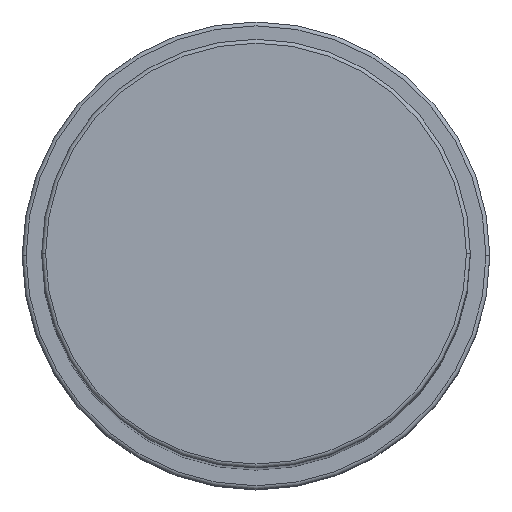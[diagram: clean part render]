
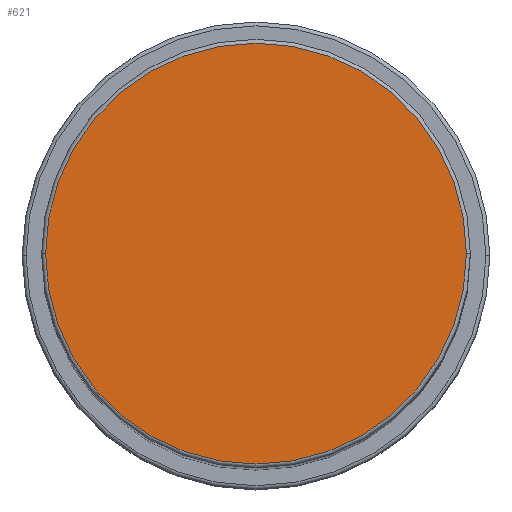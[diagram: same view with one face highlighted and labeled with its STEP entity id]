
A CAD part, top view. The second image highlights one B-rep face of the part: STEP entity #621.
In plain terms, the highlighted planar face has unit normal (0, 0, 1).
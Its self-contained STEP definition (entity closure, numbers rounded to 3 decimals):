
#30 = ORIENTED_EDGE ( 'NONE', *, *, #305, .T. ) ;
#36 = CARTESIAN_POINT ( 'NONE',  ( -27., 0., 173. ) ) ;
#239 = DIRECTION ( 'NONE',  ( 1., 0., 0. ) ) ;
#305 = EDGE_CURVE ( 'NONE', #1101, #1569, #1276, .T. ) ;
#367 = PLANE ( 'NONE',  #1480 ) ;
#376 = FACE_OUTER_BOUND ( 'NONE', #515, .T. ) ;
#503 = CARTESIAN_POINT ( 'NONE',  ( 27., 0., 173. ) ) ;
#515 = EDGE_LOOP ( 'NONE', ( #30, #954 ) ) ;
#516 = CARTESIAN_POINT ( 'NONE',  ( 0., 0., 173. ) ) ;
#621 = ADVANCED_FACE ( 'NONE', ( #376 ), #367, .T. ) ;
#643 = DIRECTION ( 'NONE',  ( 1., 0., 0. ) ) ;
#719 = CARTESIAN_POINT ( 'NONE',  ( 0., 0., 173. ) ) ;
#783 = AXIS2_PLACEMENT_3D ( 'NONE', #1008, #1634, #239 ) ;
#897 = AXIS2_PLACEMENT_3D ( 'NONE', #719, #1469, #1348 ) ;
#904 = EDGE_CURVE ( 'NONE', #1569, #1101, #1070, .T. ) ;
#954 = ORIENTED_EDGE ( 'NONE', *, *, #904, .T. ) ;
#1008 = CARTESIAN_POINT ( 'NONE',  ( 0., 0., 173. ) ) ;
#1070 = CIRCLE ( 'NONE', #897, 27. ) ;
#1101 = VERTEX_POINT ( 'NONE', #503 ) ;
#1276 = CIRCLE ( 'NONE', #783, 27. ) ;
#1348 = DIRECTION ( 'NONE',  ( 1., 0., 0. ) ) ;
#1406 = DIRECTION ( 'NONE',  ( 0., 0., 1. ) ) ;
#1469 = DIRECTION ( 'NONE',  ( 0., 0., 1. ) ) ;
#1480 = AXIS2_PLACEMENT_3D ( 'NONE', #516, #1406, #643 ) ;
#1569 = VERTEX_POINT ( 'NONE', #36 ) ;
#1634 = DIRECTION ( 'NONE',  ( 0., 0., 1. ) ) ;
